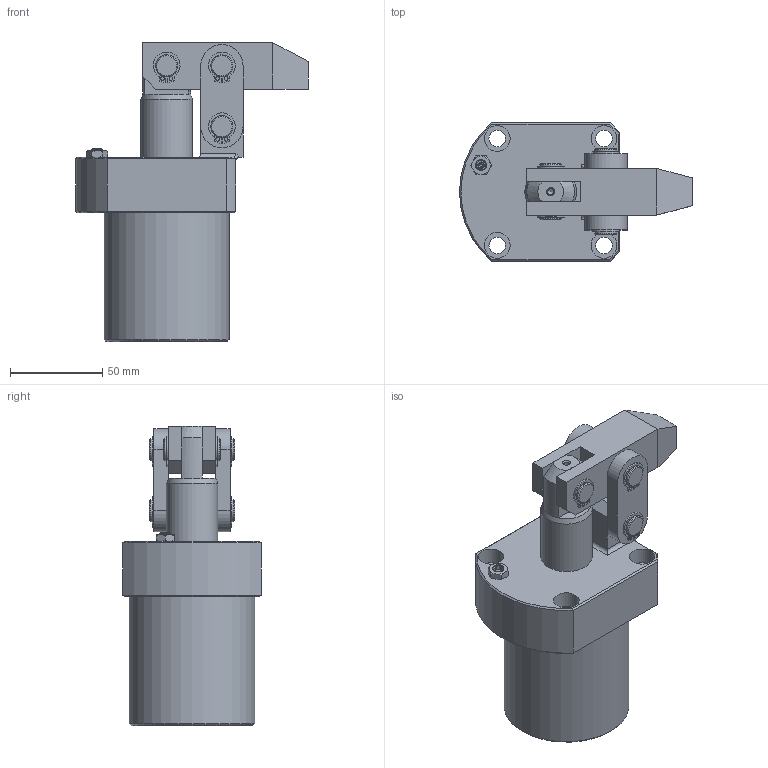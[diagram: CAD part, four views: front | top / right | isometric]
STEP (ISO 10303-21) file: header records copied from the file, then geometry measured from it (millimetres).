
FILE_DESCRIPTION(/* description */ ('Unknown'),/* implementation_level */ '2;1');
FILE_NAME(/* name */ 'HLC-FCM50-A',/* time_stamp */ '2022-11-23T03:55:25+08:00',/* author */ ('Unknown'),/* organization */ ('Unknown'),/* preprocessor_version */ 'ST-DEVELOPER v16.7',/* originating_system */ 'DEX',/* authorisation */ $);
FILE_SCHEMA (('AUTOMOTIVE_DESIGN {1 0 10303 214 3 1 1}'));
Length unit declared in the file: millimetre
Products named in the file (8): HLC-FCM50-A; HLC-FCM50-CYLINDER; HLC-5002-AXLE CENTRE; HLC-50-A; HLC-FCM50-墊; HLC-FCM50-PINªø; HLC-FCM50-PINµu; HLC-FCM50-C扣
Assembly tree (14 placements, depth 2):
  HLC-FCM50-A
    HLC-FCM50-CYLINDER
    HLC-5002-AXLE CENTRE
    HLC-50-A
    HLC-FCM50-墊  x2
    HLC-FCM50-PINªø  x2
    HLC-FCM50-PINµu
    HLC-FCM50-C扣  x6
Bounding box: 126.5 x 75 x 162.4 mm (x, y, z)
Volume: 470957.9 mm3; surface area: 95067.1 mm2
Topology: 14 solids, 14 shells, 296 faces, 683 edges, 445 vertices
Faces by surface type: plane 127, cylinder 124, cone 31, bspline 12, torus 2
Full cylindrical faces by diameter (mm): 2 x12, 3 x2, 3.2 x1, 4.1 x2, 6 x1, 9 x4, 11.3 x6, 12 x20, 14 x4, 28 x2, 49.4 x1, 50 x1, 68 x1
Entity records: 5433 total; most frequent: CARTESIAN_POINT 1175, DIRECTION 842, ORIENTED_EDGE 716, EDGE_CURVE 358, AXIS2_PLACEMENT_3D 352, FACE_BOUND 305, EDGE_LOOP 304, VERTEX_POINT 261
